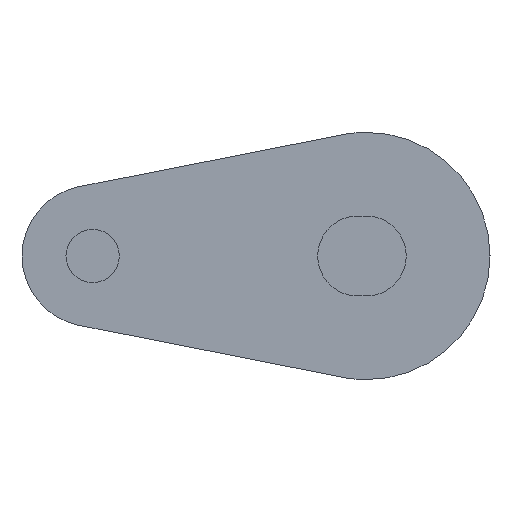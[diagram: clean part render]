
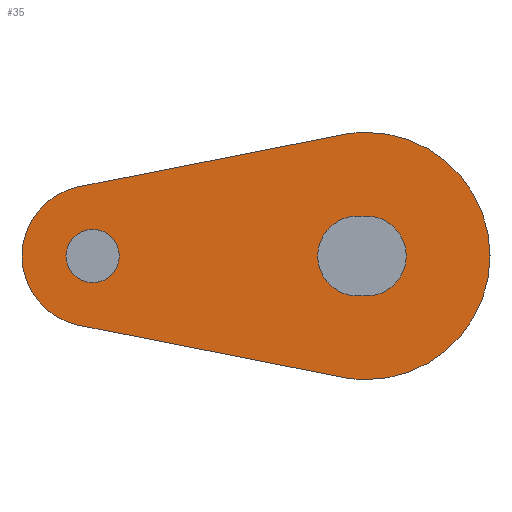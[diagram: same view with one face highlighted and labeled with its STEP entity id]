
A CAD part, left-side view. The second image highlights one B-rep face of the part: STEP entity #35.
In plain terms, the highlighted planar face has unit normal (-1, 0, 0).
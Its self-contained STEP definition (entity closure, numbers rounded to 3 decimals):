
#35 = ADVANCED_FACE ( 'NONE', ( #200, #195, #193 ), #793, .T. ) ;
#49 = CIRCLE ( 'NONE', #475, 7. ) ;
#58 = CIRCLE ( 'NONE', #499, 1.51 ) ;
#62 = LINE ( 'NONE', #910, #68 ) ;
#66 = CIRCLE ( 'NONE', #598, 4. ) ;
#68 = VECTOR ( 'NONE', #902, 1000. ) ;
#80 = LINE ( 'NONE', #875, #94 ) ;
#81 = CIRCLE ( 'NONE', #587, 7. ) ;
#94 = VECTOR ( 'NONE', #868, 1000. ) ;
#120 = LINE ( 'NONE', #925, #126 ) ;
#126 = VECTOR ( 'NONE', #842, 1000. ) ;
#143 = CIRCLE ( 'NONE', #488, 2.26 ) ;
#144 = LINE ( 'NONE', #1027, #148 ) ;
#145 = CIRCLE ( 'NONE', #473, 2.26 ) ;
#148 = VECTOR ( 'NONE', #1028, 1000. ) ;
#154 = CIRCLE ( 'NONE', #498, 7. ) ;
#169 = CIRCLE ( 'NONE', #559, 1.51 ) ;
#193 = FACE_OUTER_BOUND ( 'NONE', #252, .T. ) ;
#195 = FACE_BOUND ( 'NONE', #253, .T. ) ;
#200 = FACE_BOUND ( 'NONE', #254, .T. ) ;
#252 = EDGE_LOOP ( 'NONE', ( #447, #391, #423, #379, #343, #446 ) ) ;
#253 = EDGE_LOOP ( 'NONE', ( #395, #383 ) ) ;
#254 = EDGE_LOOP ( 'NONE', ( #323, #322, #384, #396 ) ) ;
#322 = ORIENTED_EDGE ( 'NONE', *, *, #531, .T. ) ;
#323 = ORIENTED_EDGE ( 'NONE', *, *, #570, .T. ) ;
#343 = ORIENTED_EDGE ( 'NONE', *, *, #530, .F. ) ;
#379 = ORIENTED_EDGE ( 'NONE', *, *, #579, .F. ) ;
#383 = ORIENTED_EDGE ( 'NONE', *, *, #603, .T. ) ;
#384 = ORIENTED_EDGE ( 'NONE', *, *, #568, .T. ) ;
#391 = ORIENTED_EDGE ( 'NONE', *, *, #552, .F. ) ;
#395 = ORIENTED_EDGE ( 'NONE', *, *, #484, .T. ) ;
#396 = ORIENTED_EDGE ( 'NONE', *, *, #483, .T. ) ;
#423 = ORIENTED_EDGE ( 'NONE', *, *, #522, .F. ) ;
#446 = ORIENTED_EDGE ( 'NONE', *, *, #572, .F. ) ;
#447 = ORIENTED_EDGE ( 'NONE', *, *, #474, .F. ) ;
#473 = AXIS2_PLACEMENT_3D ( 'NONE', #938, #1035, #1036 ) ;
#474 = EDGE_CURVE ( 'NONE', #636, #639, #66, .T. ) ;
#475 = AXIS2_PLACEMENT_3D ( 'NONE', #890, #891, #885 ) ;
#483 = EDGE_CURVE ( 'NONE', #734, #692, #62, .T. ) ;
#484 = EDGE_CURVE ( 'NONE', #689, #659, #58, .T. ) ;
#488 = AXIS2_PLACEMENT_3D ( 'NONE', #934, #828, #826 ) ;
#497 = AXIS2_PLACEMENT_3D ( 'NONE', #782, #803, #804 ) ;
#498 = AXIS2_PLACEMENT_3D ( 'NONE', #1039, #1022, #1023 ) ;
#499 = AXIS2_PLACEMENT_3D ( 'NONE', #903, #904, #905 ) ;
#522 = EDGE_CURVE ( 'NONE', #718, #712, #49, .T. ) ;
#530 = EDGE_CURVE ( 'NONE', #633, #687, #81, .T. ) ;
#531 = EDGE_CURVE ( 'NONE', #690, #698, #80, .T. ) ;
#552 = EDGE_CURVE ( 'NONE', #712, #636, #120, .T. ) ;
#559 = AXIS2_PLACEMENT_3D ( 'NONE', #1006, #1047, #1048 ) ;
#568 = EDGE_CURVE ( 'NONE', #698, #734, #143, .T. ) ;
#570 = EDGE_CURVE ( 'NONE', #692, #690, #145, .T. ) ;
#572 = EDGE_CURVE ( 'NONE', #639, #633, #144, .T. ) ;
#579 = EDGE_CURVE ( 'NONE', #687, #718, #154, .T. ) ;
#587 = AXIS2_PLACEMENT_3D ( 'NONE', #877, #871, #872 ) ;
#598 = AXIS2_PLACEMENT_3D ( 'NONE', #919, #913, #914 ) ;
#603 = EDGE_CURVE ( 'NONE', #659, #689, #169, .T. ) ;
#633 = VERTEX_POINT ( 'NONE', #947 ) ;
#636 = VERTEX_POINT ( 'NONE', #996 ) ;
#639 = VERTEX_POINT ( 'NONE', #1046 ) ;
#659 = VERTEX_POINT ( 'NONE', #987 ) ;
#687 = VERTEX_POINT ( 'NONE', #981 ) ;
#689 = VERTEX_POINT ( 'NONE', #971 ) ;
#690 = VERTEX_POINT ( 'NONE', #972 ) ;
#692 = VERTEX_POINT ( 'NONE', #974 ) ;
#698 = VERTEX_POINT ( 'NONE', #979 ) ;
#712 = VERTEX_POINT ( 'NONE', #969 ) ;
#718 = VERTEX_POINT ( 'NONE', #953 ) ;
#734 = VERTEX_POINT ( 'NONE', #1051 ) ;
#782 = CARTESIAN_POINT ( 'NONE',  ( -429.5, 15.5, 0. ) ) ;
#793 = PLANE ( 'NONE',  #497 ) ;
#803 = DIRECTION ( 'NONE',  ( -1., 0., 0. ) ) ;
#804 = DIRECTION ( 'NONE',  ( 0., 0., -1. ) ) ;
#826 = DIRECTION ( 'NONE',  ( 0., 0., -1. ) ) ;
#828 = DIRECTION ( 'NONE',  ( 1., 0., 0. ) ) ;
#842 = DIRECTION ( 'NONE',  ( 0., 0.981, 0.194 ) ) ;
#868 = DIRECTION ( 'NONE',  ( 0., -1., 0. ) ) ;
#871 = DIRECTION ( 'NONE',  ( 1., 0., 0. ) ) ;
#872 = DIRECTION ( 'NONE',  ( 0., 0., -1. ) ) ;
#875 = CARTESIAN_POINT ( 'NONE',  ( -429.5, 0.5, 2.26 ) ) ;
#877 = CARTESIAN_POINT ( 'NONE',  ( -429.5, 0., 0. ) ) ;
#885 = DIRECTION ( 'NONE',  ( 0., 0., -1. ) ) ;
#890 = CARTESIAN_POINT ( 'NONE',  ( -429.5, 0., 0. ) ) ;
#891 = DIRECTION ( 'NONE',  ( 1., 0., 0. ) ) ;
#902 = DIRECTION ( 'NONE',  ( 0., 1., 0. ) ) ;
#903 = CARTESIAN_POINT ( 'NONE',  ( -429.5, 15.5, 0. ) ) ;
#904 = DIRECTION ( 'NONE',  ( 1., 0., 0. ) ) ;
#905 = DIRECTION ( 'NONE',  ( 0., 0., -1. ) ) ;
#910 = CARTESIAN_POINT ( 'NONE',  ( -429.5, 0.5, -2.26 ) ) ;
#913 = DIRECTION ( 'NONE',  ( 1., 0., 0. ) ) ;
#914 = DIRECTION ( 'NONE',  ( 0., 0., -1. ) ) ;
#919 = CARTESIAN_POINT ( 'NONE',  ( -429.5, 15.5, 0. ) ) ;
#925 = CARTESIAN_POINT ( 'NONE',  ( -429.5, 1.355, -6.868 ) ) ;
#934 = CARTESIAN_POINT ( 'NONE',  ( -429.5, 0., 0. ) ) ;
#938 = CARTESIAN_POINT ( 'NONE',  ( -429.5, 0.5, 0. ) ) ;
#947 = CARTESIAN_POINT ( 'NONE',  ( -429.5, 1.355, 6.868 ) ) ;
#953 = CARTESIAN_POINT ( 'NONE',  ( -429.5, 0., -7. ) ) ;
#969 = CARTESIAN_POINT ( 'NONE',  ( -429.5, 1.355, -6.868 ) ) ;
#971 = CARTESIAN_POINT ( 'NONE',  ( -429.5, 15.5, -1.51 ) ) ;
#972 = CARTESIAN_POINT ( 'NONE',  ( -429.5, 0.5, 2.26 ) ) ;
#974 = CARTESIAN_POINT ( 'NONE',  ( -429.5, 0.5, -2.26 ) ) ;
#979 = CARTESIAN_POINT ( 'NONE',  ( -429.5, 0., 2.26 ) ) ;
#981 = CARTESIAN_POINT ( 'NONE',  ( -429.5, 0., 7. ) ) ;
#987 = CARTESIAN_POINT ( 'NONE',  ( -429.5, 15.5, 1.51 ) ) ;
#996 = CARTESIAN_POINT ( 'NONE',  ( -429.5, 16.274, -3.924 ) ) ;
#1006 = CARTESIAN_POINT ( 'NONE',  ( -429.5, 15.5, 0. ) ) ;
#1022 = DIRECTION ( 'NONE',  ( 1., 0., 0. ) ) ;
#1023 = DIRECTION ( 'NONE',  ( 0., 0., -1. ) ) ;
#1027 = CARTESIAN_POINT ( 'NONE',  ( -429.5, 16.274, 3.924 ) ) ;
#1028 = DIRECTION ( 'NONE',  ( 0., -0.981, 0.194 ) ) ;
#1035 = DIRECTION ( 'NONE',  ( 1., 0., 0. ) ) ;
#1036 = DIRECTION ( 'NONE',  ( 0., 0., -1. ) ) ;
#1039 = CARTESIAN_POINT ( 'NONE',  ( -429.5, 0., 0. ) ) ;
#1046 = CARTESIAN_POINT ( 'NONE',  ( -429.5, 16.274, 3.924 ) ) ;
#1047 = DIRECTION ( 'NONE',  ( 1., 0., 0. ) ) ;
#1048 = DIRECTION ( 'NONE',  ( 0., 0., -1. ) ) ;
#1051 = CARTESIAN_POINT ( 'NONE',  ( -429.5, 0., -2.26 ) ) ;
